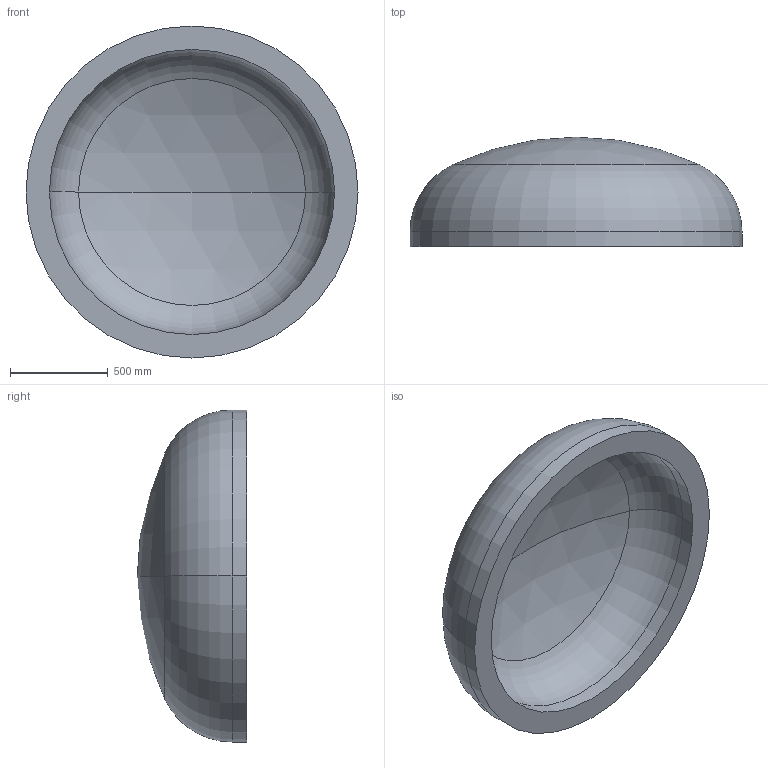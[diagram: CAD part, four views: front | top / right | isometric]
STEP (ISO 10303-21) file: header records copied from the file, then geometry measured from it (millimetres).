
FILE_DESCRIPTION (( 'STEP AP203' ), '1' );
FILE_NAME ('DIN 28013 Korbbogenform_-_Boden DIN 28013 - 1700 x 75 - I - s=120.step', '2016-07-01T12:12:56', ( '' ), ( '' ), 'SwSTEP 2.0', 'SolidWorks 2013', '' );
FILE_SCHEMA (( 'CONFIG_CONTROL_DESIGN' ));
Length unit declared in the file: millimetre
Products named in the file (1): DIN 28013 Korbbogenform_-_Boden DIN 28013 - 1700 x 75 - I - s=120
Bounding box: 1700 x 560.46 x 1700 mm (x, y, z)
Volume: 389212345.9 mm3; surface area: 7112676.2 mm2
Topology: 1 solids, 1 shells, 13 faces, 24 edges, 14 vertices
Faces by surface type: torus 4, cylinder 4, sphere 4, plane 1
Entity records: 407 total; most frequent: DIRECTION 72, CARTESIAN_POINT 52, ORIENTED_EDGE 48, AXIS2_PLACEMENT_3D 34, EDGE_CURVE 24, CIRCLE 20, EDGE_LOOP 14, VERTEX_POINT 14
